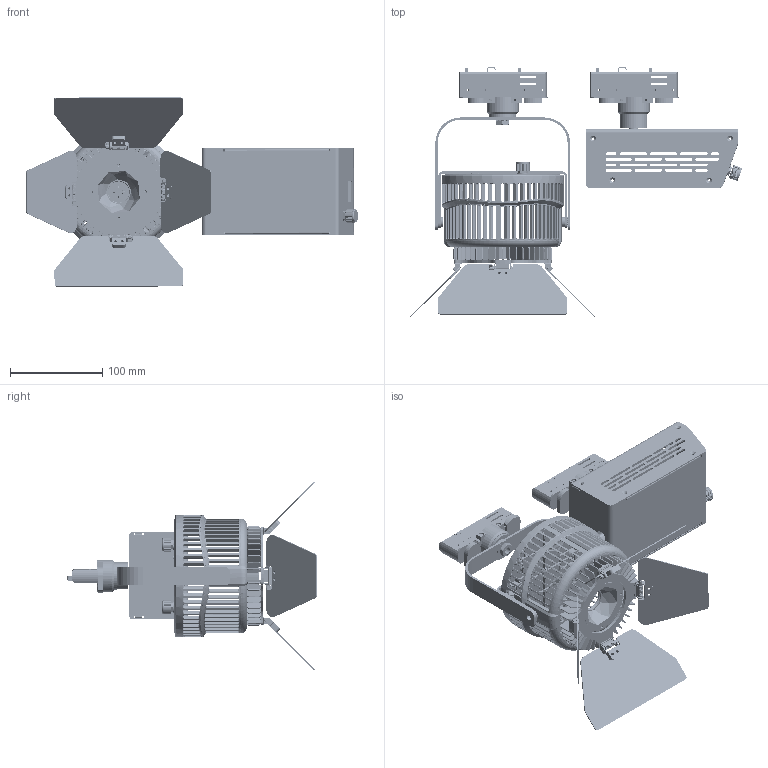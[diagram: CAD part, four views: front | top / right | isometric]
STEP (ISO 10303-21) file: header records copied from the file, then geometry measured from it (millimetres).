
FILE_DESCRIPTION (( 'STEP AP214' ), '1' );
FILE_NAME ('W500BD-TEX-PSX.STEP', '2024-02-01T19:03:23', ( '' ), ( '' ), 'SwSTEP 2.0', 'SolidWorks 2022', '' );
FILE_SCHEMA (( 'AUTOMOTIVE_DESIGN' ));
Length unit declared in the file: millimetre
Products named in the file (42): 5020919-XXX_A5_Spacer, Pitch 6.0, Light Shielding, Barn Door___; 62280-1343006_ _SCREW, PAN HEAD TROX W-THD LOCK, SUS-410, BLACK, M3xL6mm___; 5020893-3211020005_ _Flat Washer Customized, Nylon Black, ID11mm OD20mm T0.5mm___; 5022340-XXX_A1_Major Leaf of 3 inch Barndoor, L140, W77, T1.1___; 62432-11100100140040_ _Hex Nuts Customized, M10 P1.0 S14 T4 W-Zinc___; 5021287_A2_Toothed Lock Washer M6, OD11 ID6.4 T0.55, SUS___; 5022667-XXX_A1_Holder, Barn Door Frame For W-Series, OD=107, T=3mm___; 5120540-XXX_A1_Rear Panel, OD=133, T=13.65mm, W-Series_5120531-001 W500; 5022484-XXX_A1_Retaining Collar, M10xL10 P1.0, D30.0x31.1mm___; 5120561_A1_Frame, T=1.5mm AL5052 Black, 17.5x20x65.15mm___; 5020921-XXX_A5_Spacer, Pitch 7.4, Light Shielding, Barn Door___; 5021948_A1_Narrow Reflector, OD=54, T=15.6MM___; 5020757-001_A1_VR Nut, Kessil A360 Aquarium Light___; 5022445-XXX_A1_DC Plug for W Series, D=12mm_-002(Black); W500BD-TEX-PSX; 62280-1363006_ _SCREW, M3x6mmL, PAN HEAD TORX WITH THREAD LOCK___; 5120529-XXX_A1_Assembly BOM, W500 Light Engine_Finish; 5021787_A3_Retaining Collar, M10xL10___; 5021924_A2_BOLT SCREW, M3.0, L=19.2MM___; 5020655-011_A4_Hinge, Assembly, Barndoor Video Light, Pitch6.0, Black_01; 5021926-XXX_A2_KNOB, 18T, OD=14.9, ID=6, L=10MM_C1; 5020655-012_A4_Hinge, Assembly, Barndoor Video Light, Pitch7.4, Black_01; 5010177-XXX_A2_Assembly BOM, Kessil W500_55D-BD-[TEX]; 5022398-XXX_A1_Plug for W Series, 19x10x9.4mm_-002(Black); 5020757-002_A2_VR Washer, Kessil A360 Aquarium Light___; 5022432-XXX_A2_250W Power Box Cover (TEX-PSX TYPE), 165x92x62.5(H)mm___; 5022185_A3_Frame, T=1.5mm AL5052 Black, 24x20x65.15mm___; 5022348-104_ _Toothed Washer Series, M3___; 5022358-1051452003_ _Wave Spring Washer, ID10.5 OD14.5 H2.0 T0.3, Black___; 5022341-XXX_A1_Minor Leaf of 3 inch Barndoor, L96, W77, T1.1___; 5120519-XXX_A3_Assembly BOM, Kessil W500 Power Box_TON(US)-PS; 5120531-XXX_A4_Assembly BOM, Light Mounting Type for Yoke_TEX; 5022452-001_A3_Reflector Sink Holder, D108x14.35(H)mm (-002 is White)_-001(Black); 5120530-XXX_A1_Assembly BOM, W500 Reflector Type_Reflector - 55D-BD; 5022189_A1_Plate, OD=48, ID=23, T=2.0mm___; 5120539-XXX_A1_Housing, OD=133, ID=121, T=78.1mm, For Reflector, Without Logo___; 5020734-XXX_A3_Spacer, Hinge, Barn Door_-001_Black; 5022014-XYZ_A2_EUTRAC Multi Adapter_Finissh_2(No Locked); 5022447-XXX_A2_W Series, 15F YOKE PART-B, 146.2x122.5x20mm___; 62280-1313006_ _SCREW, M3x6mmL, PAN HEAD TORX WITH THREAD LOCK___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
Assembly tree (64 placements, depth 4):
  W500BD-TEX-PSX
    5120519-XXX_A3_Assembly BOM, Kessil W500 Power Box_TON(US)-PS
      5022427-XXX_A4_250W Power Box FRAME (TG&TEX&CLP TYPE), 165x95x64mm___
      5022014-XYZ_A2_EUTRAC Multi Adapter_Finissh_2(No Locked)
      5022484-XXX_A1_Retaining Collar, M10xL10 P1.0, D30.0x31.1mm___
      5022432-XXX_A2_250W Power Box Cover (TEX-PSX TYPE), 165x92x62.5(H)mm___
      5020757-002_A2_VR Washer, Kessil A360 Aquarium Light___
      5020757-001_A1_VR Nut, Kessil A360 Aquarium Light___
      5021926-XXX_A2_KNOB, 18T, OD=14.9, ID=6, L=10MM_C1
    5010177-XXX_A2_Assembly BOM, Kessil W500_55D-BD-[TEX]
      5120529-XXX_A1_Assembly BOM, W500 Light Engine_Finish
        5120540-XXX_A1_Rear Panel, OD=133, T=13.65mm, W-Series_5120531-001 W500
        5022398-XXX_A1_Plug for W Series, 19x10x9.4mm_-002(Black)
        5022445-XXX_A1_DC Plug for W Series, D=12mm_-002(Black)
        5022185_A3_Frame, T=1.5mm AL5052 Black, 24x20x65.15mm___
        5120561_A1_Frame, T=1.5mm AL5052 Black, 17.5x20x65.15mm___
        5022348-104_ _Toothed Washer Series, M3___  x2
        62280-1313006_ _SCREW, M3x6mmL, PAN HEAD TORX WITH THREAD LOCK___  x4
        5021924_A2_BOLT SCREW, M3.0, L=19.2MM___  x2
        5020757-002_A2_VR Washer, Kessil A360 Aquarium Light___  x2
        5020757-001_A1_VR Nut, Kessil A360 Aquarium Light___  x2
        5021926-XXX_A2_KNOB, 18T, OD=14.9, ID=6, L=10MM_C1  x2
        62280-1363006_ _SCREW, M3x6mmL, PAN HEAD TORX WITH THREAD LOCK___  x2
      5120530-XXX_A1_Assembly BOM, W500 Reflector Type_Reflector - 55D-BD
        5120539-XXX_A1_Housing, OD=133, ID=121, T=78.1mm, For Reflector, Without Logo___
        5022189_A1_Plate, OD=48, ID=23, T=2.0mm___
        62280-1343006_ _SCREW, PAN HEAD TROX W-THD LOCK, SUS-410, BLACK, M3xL6mm___  x2
        5022452-001_A3_Reflector Sink Holder, D108x14.35(H)mm (-002 is White)_-001(Black)
        5021948_A1_Narrow Reflector, OD=54, T=15.6MM___
        5020655-011_A4_Hinge, Assembly, Barndoor Video Light, Pitch6.0, Black_01  x2
        5020919-XXX_A5_Spacer, Pitch 6.0, Light Shielding, Barn Door___  x2
        5022341-XXX_A1_Minor Leaf of 3 inch Barndoor, L96, W77, T1.1___  x2
        5020655-012_A4_Hinge, Assembly, Barndoor Video Light, Pitch7.4, Black_01  x2
        5020921-XXX_A5_Spacer, Pitch 7.4, Light Shielding, Barn Door___  x2
        5020734-XXX_A3_Spacer, Hinge, Barn Door_-001_Black  x2
        5022340-XXX_A1_Major Leaf of 3 inch Barndoor, L140, W77, T1.1___  x2
        5022667-XXX_A1_Holder, Barn Door Frame For W-Series, OD=107, T=3mm___
      5120531-XXX_A4_Assembly BOM, Light Mounting Type for Yoke_TEX
        5022447-XXX_A2_W Series, 15F YOKE PART-B, 146.2x122.5x20mm___
        5022446-XXX_A2_W Series, 15F YOKE PART-A, 140x62x18mm___
        5021287_A2_Toothed Lock Washer M6, OD11 ID6.4 T0.55, SUS___  x2
        5022358-1051452003_ _Wave Spring Washer, ID10.5 OD14.5 H2.0 T0.3, Black___
        5020893-3211020005_ _Flat Washer Customized, Nylon Black, ID11mm OD20mm T0.5mm___  x2
        5022014-XYZ_A2_EUTRAC Multi Adapter_Finissh_2(No Locked)
        5021787_A3_Retaining Collar, M10xL10___
        62432-11100100140040_ _Hex Nuts Customized, M10 P1.0 S14 T4 W-Zinc___
Bounding box: 360.83 x 272.01 x 205.95 mm (x, y, z)
Volume: 446654.5 mm3; surface area: 478551 mm2
Topology: 92 solids, 92 shells, 9061 faces, 24883 edges, 15943 vertices
Faces by surface type: plane 3655, cylinder 3181, bspline 1194, cone 612, torus 415, sphere 4
Entity records: 309766 total; most frequent: CARTESIAN_POINT 133053, ORIENTED_EDGE 38394, DIRECTION 31745, EDGE_CURVE 19197, VERTEX_POINT 12257, AXIS2_PLACEMENT_3D 11568, LINE 8609, VECTOR 8609
